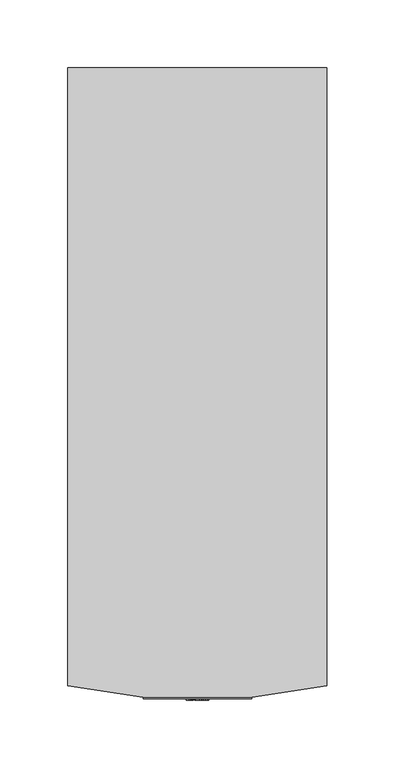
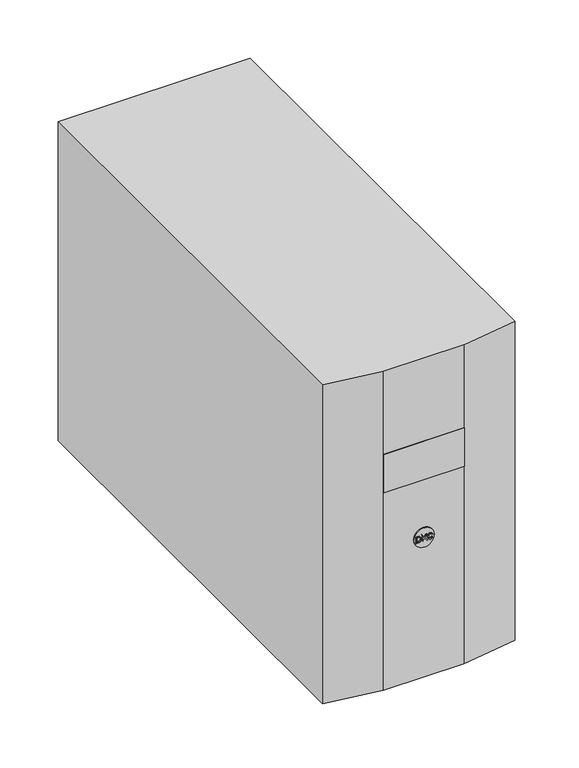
"""IFC4 building model written with IfcOpenShell, lengths in millimetres: proxy geometry, НВО_КНС_ОнлайнИБПSmallTower_DKC : 3000 ВА."""

from ifc_helpers import new_model, si_unit, point, frame, frame_2d, origin, origin_with_axes, place, context, project, spatial, polyline, circle_curve, trimmed, segment, composite_curve, outline, extrude, source, transform, mapped, element, save


def electrical_equipment_7379c805(model_context):
    return source(origin(), model_context, "Body", "SweptSolid", [
        extrude(outline(polyline([(144.0, -8.1463789), (144.0, -5.967046), (144.103007, -4.9980448), (144.9520786, -3.7273804), (145.829845, -3.3153525), (147.0460629, -3.154956), (148.4793312, -3.391872), (149.5094008, -4.1055631), (149.9405585, -4.9914229), (150.0273786, -6.0671099), (150.0273786, -8.1463789), (144.0, -8.1463789)]), holes=[polyline([(144.7534223, -7.3929566), (149.2739563, -7.3929566), (149.2739563, -6.0803536), (149.153291, -5.0120243), (148.4852173, -4.2299072), (147.0578351, -3.9083783), (145.9181367, -4.0724537), (144.8623154, -5.0900153), (144.7534223, -6.0597522), (144.7534223, -7.3929566)])]), frame((0.0, -2.0, 0.0), z_axis=(0.0, 1.0, 0.0), x_axis=(0.0, 0.0, 1.0)), (0.0, 0.0, 1.0), 6.0),
        extrude(outline(polyline([(144.0, -1.7422891), (146.0719114, -1.365578), (147.0401768, -0.3502237), (144.0, 1.9512461), (144.0, 2.8724226), (147.5493255, 0.183941), (150.0273786, 2.7782448), (150.0273786, 1.7246308), (147.076965, -1.365578), (150.0273786, -2.1190003), (144.0, -1.7422891)])), frame((0.0, -2.0, 0.0), z_axis=(0.0, 1.0, 0.0), x_axis=(0.0, 0.0, 1.0)), (0.0, 0.0, 1.0), 6.0),
        extrude(outline(polyline([(146.1425447, 7.6754899), (145.0330126, 7.036111), (144.6592445, 5.8831689), (144.9336845, 4.8435343), (145.7628905, 4.1357294), (147.0607782, 3.9083783), (148.180611, 4.1004127), (149.0458694, 4.7662791), (149.3681341, 5.944973), (149.0775073, 6.9632704), (148.3307068, 8.3347345), (149.652139, 7.4834555), (150.1215564, 5.9744036), (149.7588248, 4.5264201), (148.6971173, 3.5118015), (147.0593067, 3.154956), (145.4479835, 3.4705987), (144.3016632, 4.3903037), (143.9058222, 5.9582168), (144.4289504, 7.5356948), (146.1425447, 7.6754899)])), frame((0.0, -2.0, 0.0), z_axis=(0.0, 1.0, 0.0), x_axis=(0.0, 0.0, 1.0)), (0.0, 0.0, 1.0), 6.0),
        extrude(outline(composite_curve([segment(trimmed(circle_curve(frame_2d((147.0, 0.0)), 10.0), [point((147.0, -10.0))], [point((147.0, 10.0))], False, "CARTESIAN"), True, "CONTINUOUS"), segment(trimmed(circle_curve(frame_2d((147.0, 0.0)), 10.0), [point((147.0, 10.0))], [point((147.0, -10.0))], False, "CARTESIAN"), True, "CONTINUOUS")], self_intersect=False)), frame((0.0, -1.0, 0.0), z_axis=(0.0, 1.0, 0.0), x_axis=(0.0, 0.0, 1.0)), (0.0, 0.0, 1.0), 10.0),
        extrude(outline(polyline([(-95.5, 464.0), (95.5, 464.0), (95.5, 8.5743742), (40.0, 0.0), (-40.0, 0.0), (-95.5, 8.5743742), (-95.5, 464.0)])), origin_with_axes(), (0.0, 0.0, 1.0), 335.0),
        extrude(outline(polyline([(40.0, -1.0), (-40.0, -1.0), (-40.0, 0.0), (40.0, 0.0), (40.0, -1.0)])), frame((0.0, 0.0, 208.0), z_axis=(0.0, 0.0, 1.0), x_axis=(1.0, 0.0, 0.0)), (0.0, 0.0, 1.0), 40.0),
    ])


if __name__ == "__main__":
    model = new_model("IFC4")
    model_context = context("Model", 3, world=origin())
    ifc_project = project(units=[si_unit("LENGTHUNIT", "METRE", prefix="MILLI")], contexts=[model_context])
    site = spatial("IfcSite", under=ifc_project)
    building = spatial("IfcBuilding", under=site)
    placement = place(None, origin())
    electrical_equipment_shape = electrical_equipment_7379c805(model_context)
    element("IfcBuildingElementProxy", 1, Name="НВО_КНС_ОнлайнИБПSmallTower_DKC : 3000 ВА", ObjectType="НВО_КНС_ОнлайнИБПSmallTower_DKC : 3000 ВА", at=placement, inside=building, context=model_context, shape_type="MappedRepresentation", body=[
        mapped(electrical_equipment_shape, transform((0.0, 0.0, 0.0), x_axis=(1.0, 0.0, 0.0), y_axis=(0.0, 1.0, 0.0), z_axis=(0.0, 0.0, 1.0))),
    ])
    save(model, "model.ifc")
